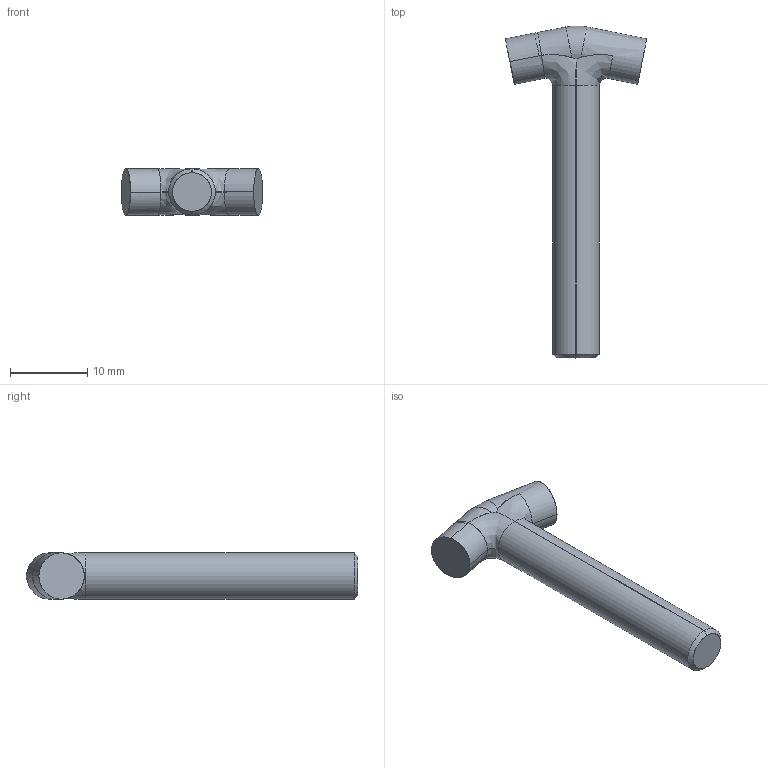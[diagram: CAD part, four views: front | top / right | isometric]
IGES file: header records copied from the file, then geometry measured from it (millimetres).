
Start section: SolidWorks IGES FILE using analytic representation for surfaces
Global section: file name: C:\Documents and Settings\lecoutey\Bureau\GR 88\55.300.10.IGS; native system: SolidWorks 2004 by SolidWorks Corporation; preprocessor: Version 5.3; author: lecoutey; date: 050405.090746; units: millimetre
Bounding box: 18.35 x 43.04 x 6 mm (x, y, z)
Surface area: 1082.5 mm2 (no closed solid volume)
Topology: 0 solids, 0 shells, 28 faces, 302 edges, 302 vertices
Faces by surface type: revolution 19, bspline 9
